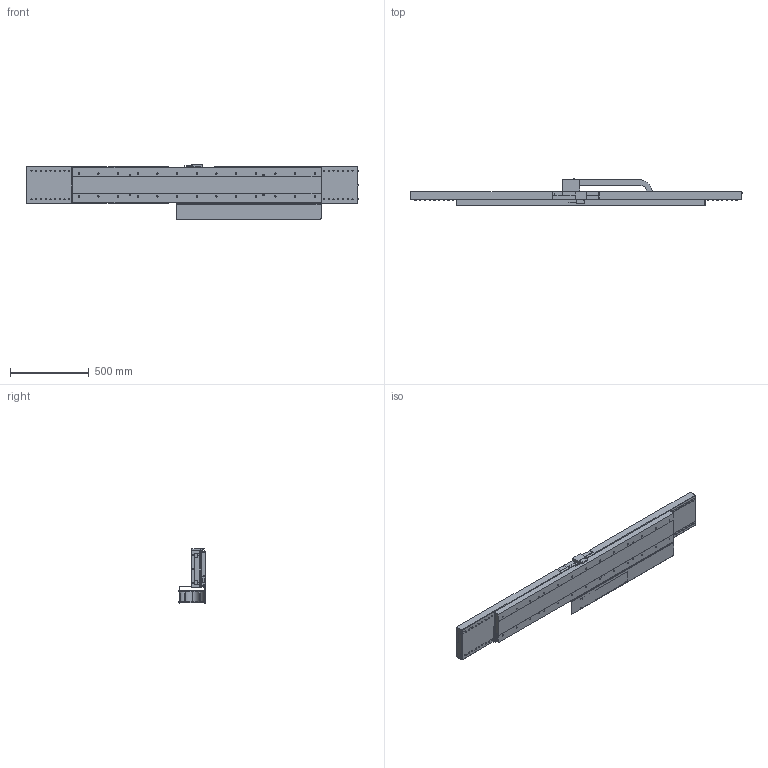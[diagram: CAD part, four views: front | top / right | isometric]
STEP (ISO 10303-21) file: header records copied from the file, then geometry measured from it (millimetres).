
FILE_DESCRIPTION (( 'STEP AP214' ), '1' );
FILE_NAME ('NST-A130##BPJA_#2.00_0.STEP', '2021-08-31T04:16:56', ( '' ), ( '' ), 'SwSTEP 2.0', 'SolidWorks 2018', '' );
FILE_SCHEMA (( 'AUTOMOTIVE_DESIGN' ));
Length unit declared in the file: millimetre
Products named in the file (4): NST-A130##BPJA_#2.00_0; AUA03000; AUA03280; 17YK0990_Org
Assembly tree (3 placements, depth 2):
  NST-A130##BPJA_#2.00_0
    AUA03280
    AUA03000
    17YK0990_Org
Bounding box: 2110 x 169 x 347 mm (x, y, z)
Volume: 23691723.5 mm3; surface area: 3676021.6 mm2
Topology: 43 solids, 43 shells, 1705 faces, 4311 edges, 2803 vertices
Faces by surface type: plane 1037, cylinder 556, torus 64, cone 40, sphere 8
Entity records: 70545 total; most frequent: CARTESIAN_POINT 11622, DIRECTION 8671, ORIENTED_EDGE 8514, EDGE_CURVE 4257, AXIS2_PLACEMENT_3D 2961, VERTEX_POINT 2795, LINE 2749, VECTOR 2749
